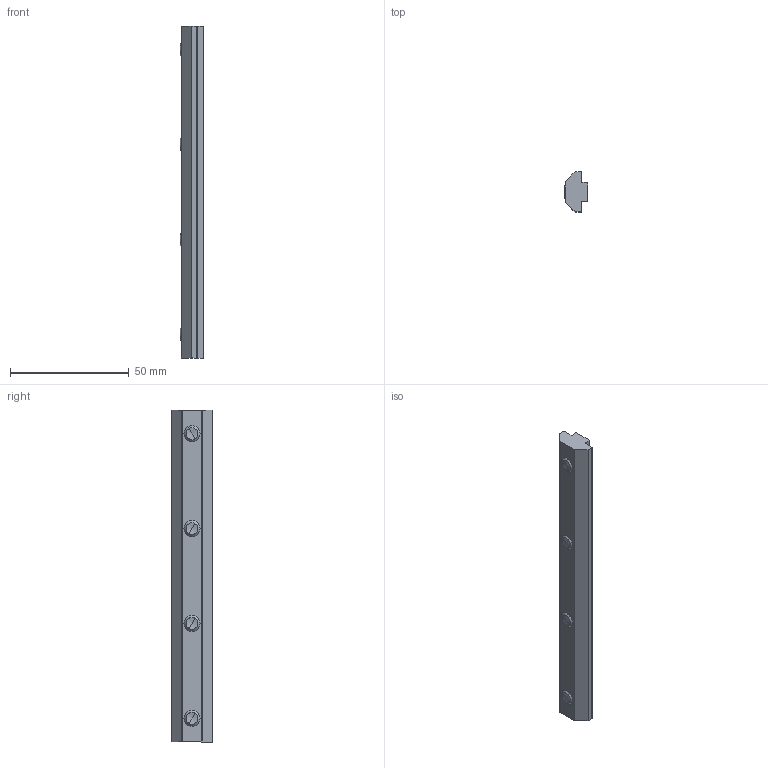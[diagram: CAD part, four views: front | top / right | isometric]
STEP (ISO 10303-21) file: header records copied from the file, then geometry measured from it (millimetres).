
FILE_DESCRIPTION (( 'STEP AP203' ), '1' );
FILE_NAME ('TCAN 8x4 T-slot nut 4xM8 (01-06-2021).STEP', '2021-06-01T06:08:13', ( '' ), ( '' ), 'SwSTEP 2.0', 'SolidWorks 2020', '' );
FILE_SCHEMA (( 'CONFIG_CONTROL_DESIGN' ));
Length unit declared in the file: millimetre
Products named in the file (1): TCAN 8x4 T-slot nut 4xM8 (01-06-2021)
Bounding box: 10 x 17 x 140 mm (x, y, z)
Volume: 17008.4 mm3; surface area: 8800.4 mm2
Topology: 5 solids, 5 shells, 86 faces, 212 edges, 132 vertices
Faces by surface type: plane 44, cylinder 26, cone 16
Entity records: 2557 total; most frequent: DIRECTION 438, CARTESIAN_POINT 423, ORIENTED_EDGE 408, EDGE_CURVE 204, AXIS2_PLACEMENT_3D 147, VECTOR 144, LINE 144, VERTEX_POINT 132
